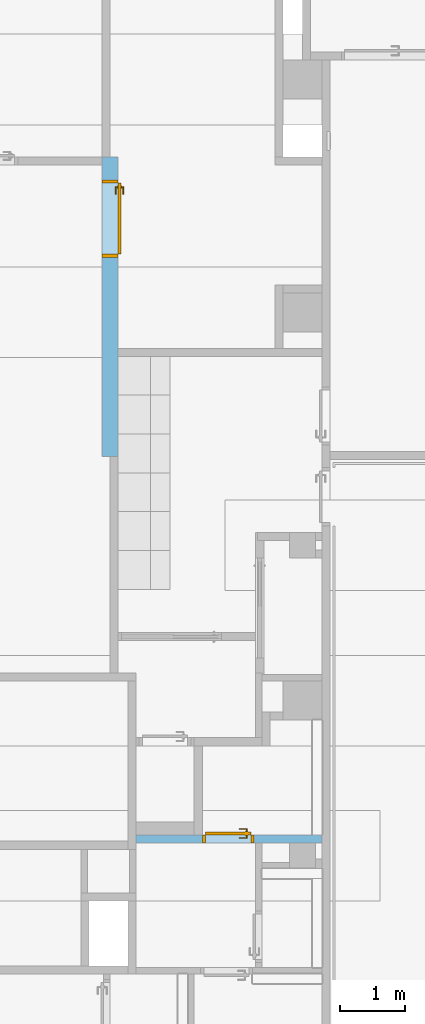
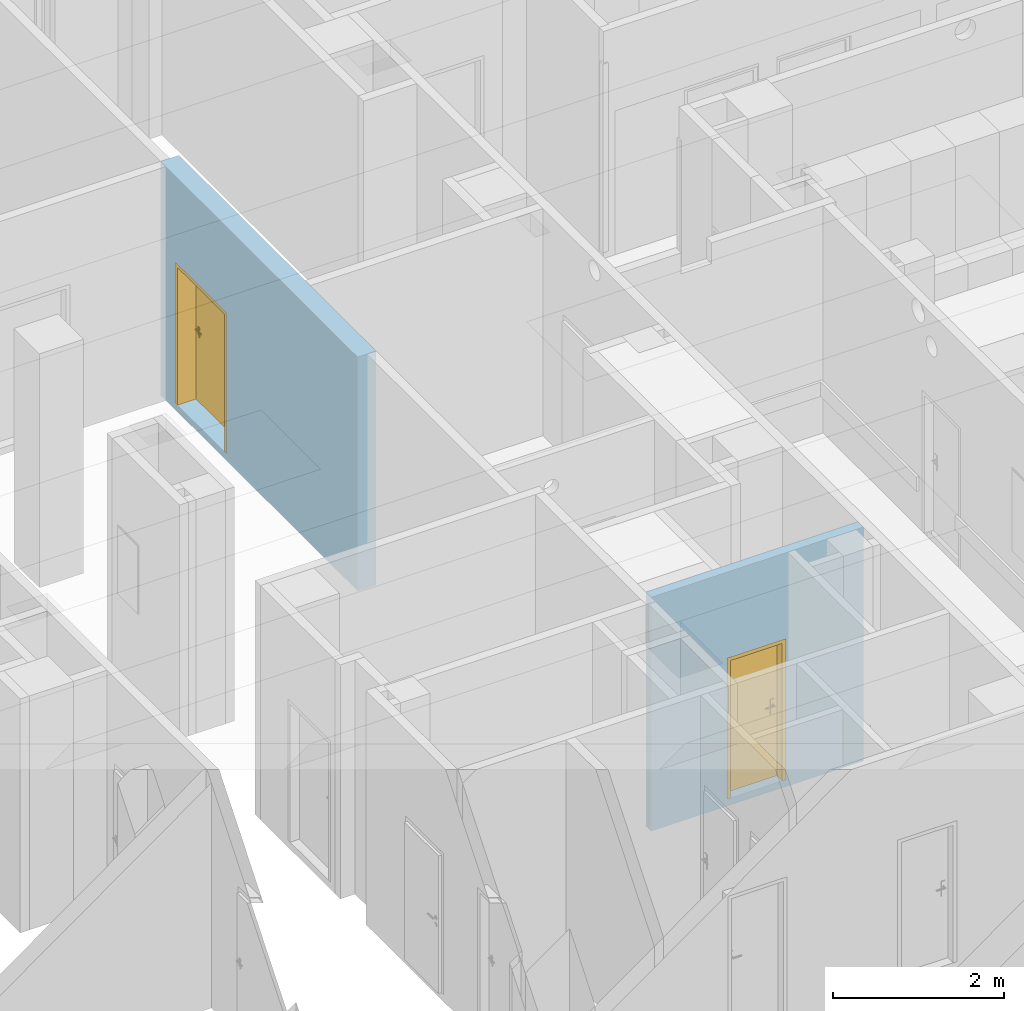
# One storey, part 95 of 140: 2 doors, 2 openings, plus 2 elements that do not belong to this part.
"""IFC4 building model written with IfcOpenShell, lengths in metres."""

from ifc_helpers import new_model, entity, si_unit, converted_unit, derived_unit, frame, frame_2d, origin, origin_with_axes, place, context, subcontext, project, spatial, polyline, rectangle, outline, extrude, closed_shell, open_shell, surface_model, source, transform, mapped, material, layer, layer_set, layer_usage, type_object, element, fill, save


model = new_model("IFC4")

# Units and contexts
model_context = context("Model", 3, precision=1e-05, world=origin())
body_context = subcontext(model_context, "Body", "Model", "MODEL_VIEW")
ifc_project = project(units=[si_unit("LENGTHUNIT", "METRE"), si_unit("AREAUNIT", "SQUARE_METRE"), si_unit("VOLUMEUNIT", "CUBIC_METRE"), si_unit("MASSUNIT", "GRAM", prefix="KILO"), converted_unit("PLANEANGLEUNIT", "DEGREE", entity("IfcPlaneAngleMeasure", 0.0174532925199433), si_unit("PLANEANGLEUNIT", "RADIAN"), dimensions=[0, 0, 0, 0, 0, 0, 0]), derived_unit("THERMALTRANSMITTANCEUNIT", [(si_unit("POWERUNIT", "WATT"), 1), (si_unit("THERMODYNAMICTEMPERATUREUNIT", "KELVIN"), -1), (si_unit("LENGTHUNIT", "METRE"), -2)]), derived_unit("VOLUMETRICFLOWRATEUNIT", [(si_unit("LENGTHUNIT", "METRE"), 3), (converted_unit("TIMEUNIT", "hour", entity("IfcTimeMeasure", 3600.0), si_unit("TIMEUNIT", "SECOND"), dimensions=[0, 0, 1, 0, 0, 0, 0]), -1), (si_unit("LENGTHUNIT", "METRE"), -1)])], contexts=[model_context])

# Site, building, storey
site_placement = place(None, origin())
site = spatial("IfcSite", under=ifc_project, at=site_placement, Name="3. ASŘ", CompositionType="ELEMENT")
building_placement = place(site_placement, origin())
building = spatial("IfcBuilding", under=site, at=building_placement, Name="Pavilon C", CompositionType="ELEMENT")
storey_placement = place(building_placement, origin())
storey = spatial("IfcBuildingStorey", under=building, at=storey_placement, Name="Půdorys 1.NP", CompositionType="ELEMENT", Elevation=0.0)

# Wall, opening, door
ifc_material_1 = material(Name="ZDIVO Z CDm")
ifc_layer_1 = layer(ifc_material_1, 0.25)
ifc_layer_set_1 = layer_set([ifc_layer_1])
ifc_layer_usage_1 = layer_usage(ifc_layer_set_1, "AXIS2", "POSITIVE", 0.0)
wall_1_placement = place(storey_placement, frame((37.5, 22.975, -0.1), z_axis=(0.0, 0.0, 1.0), x_axis=(0.0, 1.0, 0.0)))
wall_1 = element("IfcWall", 1, at=wall_1_placement, inside=storey, material=ifc_layer_usage_1, Name="ZDIVO Z CDm", context=body_context, shape_type="SweptSolid", body=[
    extrude(rectangle(XDim=4.62499999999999, YDim=0.25, at=frame_2d((2.3125, 0.125), x_axis=(1.0, 0.0))), origin_with_axes(), (0.0, 0.0, 1.0), 3.35),
])
opening_1_placement = place(wall_1_placement, frame((3.07499999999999, 0.0, 0.1), z_axis=(0.0, 1.0, 0.0), x_axis=(0.0, 0.0, 1.0)))
opening_1 = element("IfcOpeningElement", 2, at=opening_1_placement, cuts=wall_1, Name="Dveřní otvor", ObjectType="Opening", context=body_context, shape_type="SweptSolid", body=[
    extrude(outline(polyline([(0.0, 1.2), (2.02, 1.2), (2.02, 0.0), (0.0, 0.0), (0.0, 1.2)])), origin_with_axes(), (0.0, 0.0, 1.0), 0.25),
])
door_type_1 = type_object("IfcDoorType", Name="D101", OperationType="NOTDEFINED", ParameterTakesPrecedence=False, PredefinedType="DOOR")
shared_shape_1 = source(origin_with_axes(), body_context, "Body", "SurfaceModel", [
    surface_model("IfcShellBasedSurfaceModel", [(0.0, 0.25, 2.02), (0.0, 0.25, -1.53080849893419e-17), (0.05, 0.25, -1.53080849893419e-17), (0.05, 0.25, 2.02), (0.0, 0.0, 1.53080849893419e-17), (0.0, 2.55795384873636e-16, 2.02), (0.05, 2.55795384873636e-16, 2.02), (0.05, 0.0, 1.53080849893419e-17)], [closed_shell([[[0, 1, 2, 3]], [[4, 5, 6, 7]], [[1, 0, 5, 4]], [[2, 1, 4, 7]], [[3, 2, 7, 6]], [[0, 3, 6, 5]]], orient=[[False], [False], [False], [False], [False], [False]])]),
    surface_model("IfcShellBasedSurfaceModel", [(1.15, 0.25, 2.02), (1.15, 0.25, -1.53080849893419e-17), (1.2, 0.25, -1.53080849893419e-17), (1.2, 0.25, 2.02), (1.15, 0.0, 1.53080849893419e-17), (1.15, 2.55795384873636e-16, 2.02), (1.2, 2.55795384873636e-16, 2.02), (1.2, 0.0, 1.53080849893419e-17)], [closed_shell([[[0, 1, 2, 3]], [[4, 5, 6, 7]], [[1, 0, 5, 4]], [[2, 1, 4, 7]], [[3, 2, 7, 6]], [[0, 3, 6, 5]]], orient=[[False], [False], [False], [False], [False], [False]])]),
    surface_model("IfcShellBasedSurfaceModel", [(0.05, 0.25, 2.02), (0.05, 0.25, 1.97), (1.15, 0.25, 1.97), (1.15, 0.25, 2.02), (0.05, 2.27373675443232e-16, 1.97), (0.05, 2.27373675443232e-16, 2.02), (1.15, 2.27373675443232e-16, 2.02), (1.15, 2.27373675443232e-16, 1.97)], [closed_shell([[[0, 1, 2, 3]], [[4, 5, 6, 7]], [[1, 0, 5, 4]], [[2, 1, 4, 7]], [[3, 2, 7, 6]], [[0, 3, 6, 5]]], orient=[[False], [False], [False], [False], [False], [False]])]),
    surface_model("IfcShellBasedSurfaceModel", [(0.05, 0.29, 1.97), (0.05, 0.29, -2.02066721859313e-17), (1.15, 0.29, -2.02066721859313e-17), (1.15, 0.29, 1.97), (0.05, 0.25, -1.53080849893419e-17), (0.05, 0.25, 1.97), (1.15, 0.25, 1.97), (1.15, 0.25, -1.53080849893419e-17)], [closed_shell([[[0, 1, 2, 3]], [[4, 5, 6, 7]], [[1, 0, 5, 4]], [[2, 1, 4, 7]], [[3, 2, 7, 6]], [[0, 3, 6, 5]]], orient=[[False], [False], [False], [False], [False], [False]])]),
    surface_model("IfcShellBasedSurfaceModel", [(1.10881569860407, 0.25, 0.93625), (1.1125, 0.25, 0.95), (1.10881569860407, 0.25, 0.96375), (1.09875, 0.25, 0.973815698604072), (1.085, 0.25, 0.9775), (1.07125, 0.25, 0.973815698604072), (1.06118430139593, 0.25, 0.96375), (1.0575, 0.25, 0.95), (1.06118430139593, 0.25, 0.93625), (1.07125, 0.25, 0.926184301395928), (1.085, 0.25, 0.9225), (1.09875, 0.25, 0.926184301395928), (1.1125, 0.2375, 0.95), (1.10881569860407, 0.2375, 0.93625), (1.09875, 0.2375, 0.926184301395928), (1.085, 0.2375, 0.9225), (1.07125, 0.2375, 0.926184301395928), (1.06118430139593, 0.2375, 0.93625), (1.0575, 0.2375, 0.95), (1.06118430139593, 0.2375, 0.96375), (1.07125, 0.2375, 0.973815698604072), (1.085, 0.2375, 0.9775), (1.09875, 0.2375, 0.973815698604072), (1.10881569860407, 0.2375, 0.96375)], [closed_shell([[[0, 1, 2, 3, 4, 5, 6, 7, 8, 9, 10, 11]], [[12, 13, 14, 15, 16, 17, 18, 19, 20, 21, 22, 23]], [[1, 0, 13, 12]], [[2, 1, 12, 23]], [[3, 2, 23, 22]], [[4, 3, 22, 21]], [[5, 4, 21, 20]], [[6, 5, 20, 19]], [[7, 6, 19, 18]], [[8, 7, 18, 17]], [[9, 8, 17, 16]], [[10, 9, 16, 15]], [[11, 10, 15, 14]], [[0, 11, 14, 13]]], orient=[[False], [False], [False], [False], [False], [False], [False], [False], [False], [False], [False], [False], [False], [False]])]),
    surface_model("IfcShellBasedSurfaceModel", [(1.10881569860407, 0.25, 1.03625), (1.1125, 0.25, 1.05), (1.10881569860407, 0.25, 1.06375), (1.09875, 0.25, 1.07381569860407), (1.085, 0.25, 1.0775), (1.07125, 0.25, 1.07381569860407), (1.06118430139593, 0.25, 1.06375), (1.0575, 0.25, 1.05), (1.06118430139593, 0.25, 1.03625), (1.07125, 0.25, 1.02618430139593), (1.085, 0.25, 1.0225), (1.09875, 0.25, 1.02618430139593), (1.1125, 0.2375, 1.05), (1.10881569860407, 0.2375, 1.03625), (1.09875, 0.2375, 1.02618430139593), (1.085, 0.2375, 1.0225), (1.07125, 0.2375, 1.02618430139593), (1.06118430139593, 0.2375, 1.03625), (1.0575, 0.2375, 1.05), (1.06118430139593, 0.2375, 1.06375), (1.07125, 0.2375, 1.07381569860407), (1.085, 0.2375, 1.0775), (1.09875, 0.2375, 1.07381569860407), (1.10881569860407, 0.2375, 1.06375)], [closed_shell([[[0, 1, 2, 3, 4, 5, 6, 7, 8, 9, 10, 11]], [[12, 13, 14, 15, 16, 17, 18, 19, 20, 21, 22, 23]], [[1, 0, 13, 12]], [[2, 1, 12, 23]], [[3, 2, 23, 22]], [[4, 3, 22, 21]], [[5, 4, 21, 20]], [[6, 5, 20, 19]], [[7, 6, 19, 18]], [[8, 7, 18, 17]], [[9, 8, 17, 16]], [[10, 9, 16, 15]], [[11, 10, 15, 14]], [[0, 11, 14, 13]]], orient=[[False], [False], [False], [False], [False], [False], [False], [False], [False], [False], [False], [False], [False], [False]])]),
    surface_model("IfcShellBasedSurfaceModel", [(1.085, 0.25, 1.06), (1.08, 0.25, 1.05866025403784), (1.07633974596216, 0.25, 1.055), (1.075, 0.25, 1.05), (1.07633974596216, 0.25, 1.045), (1.08, 0.25, 1.04133974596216), (1.085, 0.25, 1.04), (1.09, 0.25, 1.04133974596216), (1.09366025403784, 0.25, 1.045), (1.095, 0.25, 1.05), (1.09366025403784, 0.25, 1.055), (1.09, 0.25, 1.05866025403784), (1.09, 0.205, 1.05866025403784), (1.085, 0.21, 1.06), (1.09366025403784, 0.201339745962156, 1.055), (1.095, 0.2, 1.05), (1.09366025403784, 0.201339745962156, 1.045), (1.09, 0.205, 1.04133974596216), (1.085, 0.21, 1.04), (1.08, 0.215, 1.04133974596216), (1.07633974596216, 0.218660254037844, 1.045), (1.075, 0.22, 1.05), (1.07633974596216, 0.218660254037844, 1.055), (1.08, 0.215, 1.05866025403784), (0.97, 0.205, 1.05866025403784), (0.97, 0.21, 1.06), (0.97, 0.201339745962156, 1.055), (0.97, 0.2, 1.05), (0.97, 0.201339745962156, 1.045), (0.97, 0.205, 1.04133974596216), (0.97, 0.21, 1.04), (0.97, 0.215, 1.04133974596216), (0.97, 0.218660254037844, 1.045), (0.97, 0.22, 1.05), (0.97, 0.218660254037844, 1.055), (0.97, 0.215, 1.05866025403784)], [open_shell([[[0, 1, 2, 3, 4, 5, 6, 7, 8, 9, 10, 11]], [[0, 11, 12, 13]], [[11, 10, 14, 12]], [[10, 9, 15, 14]], [[9, 8, 16, 15]], [[8, 7, 17, 16]], [[7, 6, 18, 17]], [[6, 5, 19, 18]], [[5, 4, 20, 19]], [[4, 3, 21, 20]], [[3, 2, 22, 21]], [[2, 1, 23, 22]], [[1, 0, 13, 23]], [[13, 12, 24, 25]], [[12, 14, 26, 24]], [[14, 15, 27, 26]], [[15, 16, 28, 27]], [[16, 17, 29, 28]], [[17, 18, 30, 29]], [[18, 19, 31, 30]], [[19, 20, 32, 31]], [[20, 21, 33, 32]], [[21, 22, 34, 33]], [[22, 23, 35, 34]], [[23, 13, 25, 35]]], orient=[[False], [False], [False], [False], [False], [False], [False], [False], [False], [False], [False], [False], [False], [False], [False], [False], [False], [False], [False], [False], [False], [False], [False], [False], [False]])]),
    surface_model("IfcShellBasedSurfaceModel", [(1.10881569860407, 0.29, 0.93625), (1.09875, 0.29, 0.926184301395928), (1.085, 0.29, 0.9225), (1.07125, 0.29, 0.926184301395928), (1.06118430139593, 0.29, 0.93625), (1.0575, 0.29, 0.95), (1.06118430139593, 0.29, 0.96375), (1.07125, 0.29, 0.973815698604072), (1.085, 0.29, 0.9775), (1.09875, 0.29, 0.973815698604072), (1.10881569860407, 0.29, 0.96375), (1.1125, 0.29, 0.95), (1.1125, 0.3025, 0.95), (1.10881569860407, 0.3025, 0.96375), (1.09875, 0.3025, 0.973815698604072), (1.085, 0.3025, 0.9775), (1.07125, 0.3025, 0.973815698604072), (1.06118430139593, 0.3025, 0.96375), (1.0575, 0.3025, 0.95), (1.06118430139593, 0.3025, 0.93625), (1.07125, 0.3025, 0.926184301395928), (1.085, 0.3025, 0.9225), (1.09875, 0.3025, 0.926184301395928), (1.10881569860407, 0.3025, 0.93625)], [closed_shell([[[0, 1, 2, 3, 4, 5, 6, 7, 8, 9, 10, 11]], [[12, 13, 14, 15, 16, 17, 18, 19, 20, 21, 22, 23]], [[11, 12, 23, 0]], [[10, 13, 12, 11]], [[9, 14, 13, 10]], [[8, 15, 14, 9]], [[7, 16, 15, 8]], [[6, 17, 16, 7]], [[5, 18, 17, 6]], [[4, 19, 18, 5]], [[3, 20, 19, 4]], [[2, 21, 20, 3]], [[1, 22, 21, 2]], [[0, 23, 22, 1]]], orient=[[False], [False], [False], [False], [False], [False], [False], [False], [False], [False], [False], [False], [False], [False]])]),
    surface_model("IfcShellBasedSurfaceModel", [(1.10881569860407, 0.29, 1.03625), (1.09875, 0.29, 1.02618430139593), (1.085, 0.29, 1.0225), (1.07125, 0.29, 1.02618430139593), (1.06118430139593, 0.29, 1.03625), (1.0575, 0.29, 1.05), (1.06118430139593, 0.29, 1.06375), (1.07125, 0.29, 1.07381569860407), (1.085, 0.29, 1.0775), (1.09875, 0.29, 1.07381569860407), (1.10881569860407, 0.29, 1.06375), (1.1125, 0.29, 1.05), (1.1125, 0.3025, 1.05), (1.10881569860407, 0.3025, 1.06375), (1.09875, 0.3025, 1.07381569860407), (1.085, 0.3025, 1.0775), (1.07125, 0.3025, 1.07381569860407), (1.06118430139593, 0.3025, 1.06375), (1.0575, 0.3025, 1.05), (1.06118430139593, 0.3025, 1.03625), (1.07125, 0.3025, 1.02618430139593), (1.085, 0.3025, 1.0225), (1.09875, 0.3025, 1.02618430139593), (1.10881569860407, 0.3025, 1.03625)], [closed_shell([[[0, 1, 2, 3, 4, 5, 6, 7, 8, 9, 10, 11]], [[12, 13, 14, 15, 16, 17, 18, 19, 20, 21, 22, 23]], [[11, 12, 23, 0]], [[10, 13, 12, 11]], [[9, 14, 13, 10]], [[8, 15, 14, 9]], [[7, 16, 15, 8]], [[6, 17, 16, 7]], [[5, 18, 17, 6]], [[4, 19, 18, 5]], [[3, 20, 19, 4]], [[2, 21, 20, 3]], [[1, 22, 21, 2]], [[0, 23, 22, 1]]], orient=[[False], [False], [False], [False], [False], [False], [False], [False], [False], [False], [False], [False], [False], [False]])]),
    surface_model("IfcShellBasedSurfaceModel", [(1.085, 0.29, 1.06), (1.09, 0.29, 1.05866025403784), (1.09366025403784, 0.29, 1.055), (1.095, 0.29, 1.05), (1.09366025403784, 0.29, 1.045), (1.09, 0.29, 1.04133974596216), (1.085, 0.29, 1.04), (1.08, 0.29, 1.04133974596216), (1.07633974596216, 0.29, 1.045), (1.075, 0.29, 1.05), (1.07633974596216, 0.29, 1.055), (1.08, 0.29, 1.05866025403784), (1.085, 0.33, 1.06), (1.09, 0.335, 1.05866025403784), (1.09366025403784, 0.338660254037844, 1.055), (1.095, 0.34, 1.05), (1.09366025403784, 0.338660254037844, 1.045), (1.09, 0.335, 1.04133974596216), (1.085, 0.33, 1.04), (1.08, 0.325, 1.04133974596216), (1.07633974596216, 0.321339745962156, 1.045), (1.075, 0.32, 1.05), (1.07633974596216, 0.321339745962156, 1.055), (1.08, 0.325, 1.05866025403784), (0.97, 0.33, 1.06), (0.97, 0.335, 1.05866025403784), (0.97, 0.338660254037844, 1.055), (0.97, 0.34, 1.05), (0.97, 0.338660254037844, 1.045), (0.97, 0.335, 1.04133974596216), (0.97, 0.33, 1.04), (0.97, 0.325, 1.04133974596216), (0.97, 0.321339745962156, 1.045), (0.97, 0.32, 1.05), (0.97, 0.321339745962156, 1.055), (0.97, 0.325, 1.05866025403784)], [open_shell([[[0, 1, 2, 3, 4, 5, 6, 7, 8, 9, 10, 11]], [[0, 12, 13, 1]], [[1, 13, 14, 2]], [[2, 14, 15, 3]], [[3, 15, 16, 4]], [[4, 16, 17, 5]], [[5, 17, 18, 6]], [[6, 18, 19, 7]], [[7, 19, 20, 8]], [[8, 20, 21, 9]], [[9, 21, 22, 10]], [[10, 22, 23, 11]], [[11, 23, 12, 0]], [[12, 24, 25, 13]], [[13, 25, 26, 14]], [[14, 26, 27, 15]], [[15, 27, 28, 16]], [[16, 28, 29, 17]], [[17, 29, 30, 18]], [[18, 30, 31, 19]], [[19, 31, 32, 20]], [[20, 32, 33, 21]], [[21, 33, 34, 22]], [[22, 34, 35, 23]], [[23, 35, 24, 12]]], orient=[[False], [False], [False], [False], [False], [False], [False], [False], [False], [False], [False], [False], [False], [False], [False], [False], [False], [False], [False], [False], [False], [False], [False], [False], [False]])]),
])
door_1_placement = place(opening_1_placement, frame((0.0, -7.27595761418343e-15, 0.250000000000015), z_axis=(1.0, 0.0, 0.0), x_axis=(0.0, 1.0, -2.44929359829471e-16)))
door_1 = element("IfcDoor", 3, at=door_1_placement, inside=storey, type_object=door_type_1, Name="D101", OverallHeight=2.02, OverallWidth=1.2, context=body_context, shape_type="MappedRepresentation", body=[
    mapped(shared_shape_1, transform((0.0, 0.0, 0.0), x_axis=(1.0, 0.0, 0.0), y_axis=(0.0, -1.0, 0.0), z_axis=(0.0, 0.0, 1.0), scale=1.0)),
])
fill(opening_1, door_1)

ifc_material_2 = material(Name="ZDIVO Z CDm")
ifc_layer_2 = layer(ifc_material_2, 0.125)
ifc_layer_set_2 = layer_set([ifc_layer_2])
ifc_layer_usage_2 = layer_usage(ifc_layer_set_2, "AXIS2", "POSITIVE", 0.0)
wall_2_placement = place(storey_placement, frame((37.775, 17.0, -0.1)))
wall_2 = element("IfcWall", 4, at=wall_2_placement, inside=storey, material=ifc_layer_usage_2, Name="ZDIVO Z CDm", context=body_context, shape_type="SweptSolid", body=[
    extrude(rectangle(XDim=2.875, YDim=0.125, at=frame_2d((1.4375, 0.0625), x_axis=(1.0, 0.0))), origin_with_axes(), (0.0, 0.0, 1.0), 3.35),
])
opening_2_placement = place(wall_2_placement, frame((1.825, 0.125, 0.1), z_axis=(0.0, -1.0, 0.0), x_axis=(0.0, 0.0, 1.0)))
opening_2 = element("IfcOpeningElement", 5, at=opening_2_placement, cuts=wall_2, Name="Dveřní otvor", ObjectType="Opening", context=body_context, shape_type="SweptSolid", body=[
    extrude(outline(polyline([(0.0, 0.8), (2.02, 0.8), (2.02, 0.0), (0.0, 0.0), (0.0, 0.8)])), origin_with_axes(), (0.0, 0.0, 1.0), 0.125),
])
door_type_2 = type_object("IfcDoorType", Name="D101", OperationType="NOTDEFINED", ParameterTakesPrecedence=False, PredefinedType="DOOR")
shared_shape_2 = source(origin_with_axes(), body_context, "Body", "SurfaceModel", [
    surface_model("IfcShellBasedSurfaceModel", [(0.0, 0.125, 2.02), (0.0, 0.125, -7.65404249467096e-18), (0.05, 0.125, -7.65404249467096e-18), (0.05, 0.125, 2.02), (0.0, 0.0, 7.65404249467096e-18), (0.0, 2.41584530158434e-16, 2.02), (0.05, 2.41584530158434e-16, 2.02), (0.05, 0.0, 7.65404249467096e-18)], [closed_shell([[[0, 1, 2, 3]], [[4, 5, 6, 7]], [[1, 0, 5, 4]], [[2, 1, 4, 7]], [[3, 2, 7, 6]], [[0, 3, 6, 5]]], orient=[[False], [False], [False], [False], [False], [False]])]),
    surface_model("IfcShellBasedSurfaceModel", [(0.75, 0.125, 2.02), (0.75, 0.125, -7.65404249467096e-18), (0.8, 0.125, -7.65404249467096e-18), (0.8, 0.125, 2.02), (0.75, 0.0, 7.65404249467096e-18), (0.75, 2.41584530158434e-16, 2.02), (0.8, 2.41584530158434e-16, 2.02), (0.8, 0.0, 7.65404249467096e-18)], [closed_shell([[[0, 1, 2, 3]], [[4, 5, 6, 7]], [[1, 0, 5, 4]], [[2, 1, 4, 7]], [[3, 2, 7, 6]], [[0, 3, 6, 5]]], orient=[[False], [False], [False], [False], [False], [False]])]),
    surface_model("IfcShellBasedSurfaceModel", [(0.05, 0.125, 2.02), (0.05, 0.125, 1.97), (0.75, 0.125, 1.97), (0.75, 0.125, 2.02), (0.05, 2.41584530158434e-16, 1.97), (0.05, 2.41584530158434e-16, 2.02), (0.75, 2.41584530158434e-16, 2.02), (0.75, 2.41584530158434e-16, 1.97)], [closed_shell([[[0, 1, 2, 3]], [[4, 5, 6, 7]], [[1, 0, 5, 4]], [[2, 1, 4, 7]], [[3, 2, 7, 6]], [[0, 3, 6, 5]]], orient=[[False], [False], [False], [False], [False], [False]])]),
    surface_model("IfcShellBasedSurfaceModel", [(0.05, 0.165, 1.97), (0.05, 0.165, -1.25526296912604e-17), (0.75, 0.165, -1.25526296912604e-17), (0.75, 0.165, 1.97), (0.05, 0.125, -7.65404249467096e-18), (0.05, 0.125, 1.97), (0.75, 0.125, 1.97), (0.75, 0.125, -7.65404249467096e-18)], [closed_shell([[[0, 1, 2, 3]], [[4, 5, 6, 7]], [[1, 0, 5, 4]], [[2, 1, 4, 7]], [[3, 2, 7, 6]], [[0, 3, 6, 5]]], orient=[[False], [False], [False], [False], [False], [False]])]),
    surface_model("IfcShellBasedSurfaceModel", [(0.66, 0.125, 1.125), (0.66, 0.125, 0.91), (0.71, 0.125, 0.91), (0.71, 0.125, 1.125), (0.66, 0.115, 0.91), (0.66, 0.115, 1.125), (0.71, 0.115, 1.125), (0.71, 0.115, 0.91)], [closed_shell([[[0, 1, 2, 3]], [[4, 5, 6, 7]], [[1, 0, 5, 4]], [[2, 1, 4, 7]], [[3, 2, 7, 6]], [[0, 3, 6, 5]]], orient=[[False], [False], [False], [False], [False], [False]])]),
    surface_model("IfcShellBasedSurfaceModel", [(0.685, 0.115, 1.06), (0.68, 0.115, 1.05866025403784), (0.676339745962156, 0.115, 1.055), (0.675, 0.115, 1.05), (0.676339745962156, 0.115, 1.045), (0.68, 0.115, 1.04133974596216), (0.685, 0.115, 1.04), (0.69, 0.115, 1.04133974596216), (0.693660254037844, 0.115, 1.045), (0.695, 0.115, 1.05), (0.693660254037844, 0.115, 1.055), (0.69, 0.115, 1.05866025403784), (0.69, 0.0700000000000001, 1.05866025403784), (0.685, 0.0750000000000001, 1.06), (0.693660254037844, 0.0663397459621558, 1.055), (0.695, 0.0650000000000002, 1.05), (0.693660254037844, 0.0663397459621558, 1.045), (0.69, 0.0700000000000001, 1.04133974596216), (0.685, 0.0750000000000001, 1.04), (0.68, 0.0800000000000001, 1.04133974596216), (0.676339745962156, 0.0836602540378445, 1.045), (0.675, 0.0850000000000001, 1.05), (0.676339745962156, 0.0836602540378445, 1.055), (0.68, 0.0800000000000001, 1.05866025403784), (0.57, 0.0700000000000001, 1.05866025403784), (0.57, 0.0750000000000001, 1.06), (0.57, 0.0663397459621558, 1.055), (0.57, 0.0650000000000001, 1.05), (0.57, 0.0663397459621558, 1.045), (0.57, 0.0700000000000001, 1.04133974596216), (0.57, 0.0750000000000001, 1.04), (0.57, 0.0800000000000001, 1.04133974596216), (0.57, 0.0836602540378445, 1.045), (0.57, 0.0850000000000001, 1.05), (0.57, 0.0836602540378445, 1.055), (0.57, 0.0800000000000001, 1.05866025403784)], [open_shell([[[0, 1, 2, 3, 4, 5, 6, 7, 8, 9, 10, 11]], [[0, 11, 12, 13]], [[11, 10, 14, 12]], [[10, 9, 15, 14]], [[9, 8, 16, 15]], [[8, 7, 17, 16]], [[7, 6, 18, 17]], [[6, 5, 19, 18]], [[5, 4, 20, 19]], [[4, 3, 21, 20]], [[3, 2, 22, 21]], [[2, 1, 23, 22]], [[1, 0, 13, 23]], [[13, 12, 24, 25]], [[12, 14, 26, 24]], [[14, 15, 27, 26]], [[15, 16, 28, 27]], [[16, 17, 29, 28]], [[17, 18, 30, 29]], [[18, 19, 31, 30]], [[19, 20, 32, 31]], [[20, 21, 33, 32]], [[21, 22, 34, 33]], [[22, 23, 35, 34]], [[23, 13, 25, 35]]], orient=[[False], [False], [False], [False], [False], [False], [False], [False], [False], [False], [False], [False], [False], [False], [False], [False], [False], [False], [False], [False], [False], [False], [False], [False], [False]])]),
    surface_model("IfcShellBasedSurfaceModel", [(0.66, 0.165, 1.125), (0.71, 0.165, 1.125), (0.71, 0.165, 0.91), (0.66, 0.165, 0.91), (0.66, 0.175, 0.91), (0.71, 0.175, 0.91), (0.71, 0.175, 1.125), (0.66, 0.175, 1.125)], [closed_shell([[[0, 1, 2, 3]], [[4, 5, 6, 7]], [[3, 4, 7, 0]], [[2, 5, 4, 3]], [[1, 6, 5, 2]], [[0, 7, 6, 1]]], orient=[[False], [False], [False], [False], [False], [False]])]),
    surface_model("IfcShellBasedSurfaceModel", [(0.685, 0.175, 1.06), (0.69, 0.175, 1.05866025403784), (0.693660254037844, 0.175, 1.055), (0.695, 0.175, 1.05), (0.693660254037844, 0.175, 1.045), (0.69, 0.175, 1.04133974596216), (0.685, 0.175, 1.04), (0.68, 0.175, 1.04133974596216), (0.676339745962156, 0.175, 1.045), (0.675, 0.175, 1.05), (0.676339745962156, 0.175, 1.055), (0.68, 0.175, 1.05866025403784), (0.685, 0.215, 1.06), (0.69, 0.22, 1.05866025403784), (0.693660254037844, 0.223660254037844, 1.055), (0.695, 0.225, 1.05), (0.693660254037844, 0.223660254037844, 1.045), (0.69, 0.22, 1.04133974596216), (0.685, 0.215, 1.04), (0.68, 0.21, 1.04133974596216), (0.676339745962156, 0.206339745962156, 1.045), (0.675, 0.205, 1.05), (0.676339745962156, 0.206339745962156, 1.055), (0.68, 0.21, 1.05866025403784), (0.57, 0.215, 1.06), (0.57, 0.22, 1.05866025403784), (0.57, 0.223660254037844, 1.055), (0.57, 0.225, 1.05), (0.57, 0.223660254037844, 1.045), (0.57, 0.22, 1.04133974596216), (0.57, 0.215, 1.04), (0.57, 0.21, 1.04133974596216), (0.57, 0.206339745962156, 1.045), (0.57, 0.205, 1.05), (0.57, 0.206339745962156, 1.055), (0.57, 0.21, 1.05866025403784)], [open_shell([[[0, 1, 2, 3, 4, 5, 6, 7, 8, 9, 10, 11]], [[0, 12, 13, 1]], [[1, 13, 14, 2]], [[2, 14, 15, 3]], [[3, 15, 16, 4]], [[4, 16, 17, 5]], [[5, 17, 18, 6]], [[6, 18, 19, 7]], [[7, 19, 20, 8]], [[8, 20, 21, 9]], [[9, 21, 22, 10]], [[10, 22, 23, 11]], [[11, 23, 12, 0]], [[12, 24, 25, 13]], [[13, 25, 26, 14]], [[14, 26, 27, 15]], [[15, 27, 28, 16]], [[16, 28, 29, 17]], [[17, 29, 30, 18]], [[18, 30, 31, 19]], [[19, 31, 32, 20]], [[20, 32, 33, 21]], [[21, 33, 34, 22]], [[22, 34, 35, 23]], [[23, 35, 24, 12]]], orient=[[False], [False], [False], [False], [False], [False], [False], [False], [False], [False], [False], [False], [False], [False], [False], [False], [False], [False], [False], [False], [False], [False], [False], [False], [False]])]),
])
door_2_placement = place(opening_2_placement, frame((0.0, 0.8, 0.125), z_axis=(1.0, 0.0, 0.0), x_axis=(0.0, -1.0, 2.44929359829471e-16)))
door_2 = element("IfcDoor", 6, at=door_2_placement, inside=storey, type_object=door_type_2, Name="D101", OverallHeight=2.02, OverallWidth=0.8, context=body_context, shape_type="MappedRepresentation", body=[
    mapped(shared_shape_2, transform((0.0, 0.0, 0.0), x_axis=(1.0, 0.0, 0.0), y_axis=(0.0, 1.0, 0.0), z_axis=(0.0, 0.0, 1.0), scale=1.0)),
])
fill(opening_2, door_2)

save(model, "model.ifc")
